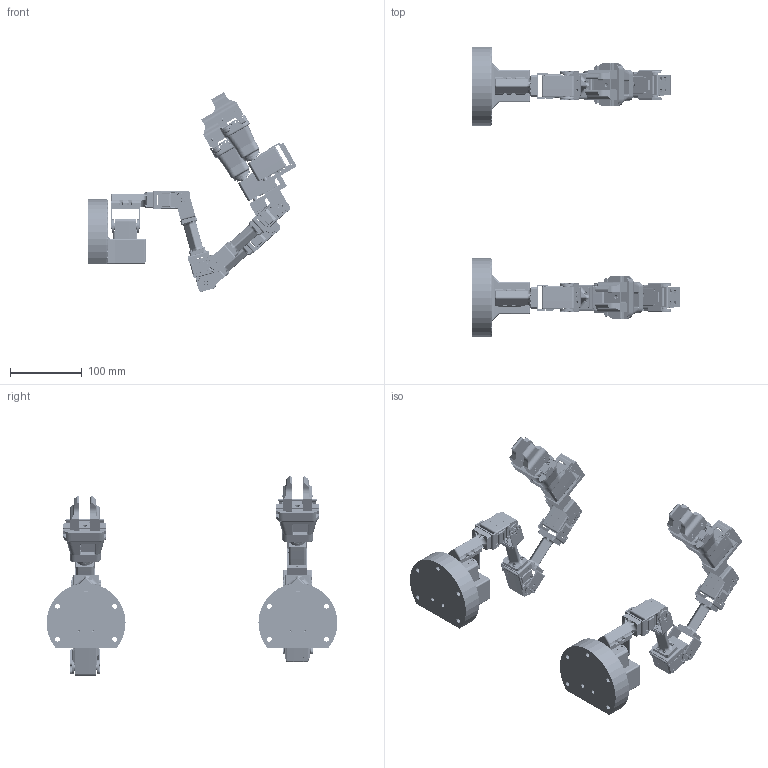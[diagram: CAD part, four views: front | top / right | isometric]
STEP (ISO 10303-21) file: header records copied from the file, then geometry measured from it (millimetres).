
FILE_DESCRIPTION(/* description */ (''),/* implementation_level */ '2;1');
FILE_NAME(/* name */ 'Assieme_101_braket_v2.stp',/* time_stamp */ '2025-07-27T10:24:52+02:00',/* author */ ('R5800u'),/* organization */ (''),/* preprocessor_version */ 'ST-DEVELOPER v20',/* originating_system */ 'Autodesk Inventor 2025',/* authorisation */ '');
FILE_SCHEMA (('AUTOMOTIVE_DESIGN { 1 0 10303 214 3 1 1 }'));
Products named in the file (60): Assieme3; sts3215_flangia_t1; Сборка14_3; SCS215_7_3; sts3215_flangia_t1_1; Сборка14_3_1; SCS215_7_3_1; Vite a testa cilindrica incassata esalobulare ISO 14580 - M2,5x8-4.8; AS 1474 - M2,5; sts3215_flangia_t1_2; Сборка14_3_2; SCS215_7_3_2; sts3215_flangia_t1_3; Сборка14_3_3; SCS215_7_3_3; Assieme2; sts3215_flangia_t1_4; Сборка14_3_4; SCS215_7_3_4; sts3215_flangia_t1_5; Сборка14_3_5; SCS215_7_3_5; blocco_base; gripper; gripper_rail_base; gripper_finger; gripper_base_plate; MG90S_assieme_disco_ldb2; MG90_ldb; scritta_MG90s; MG90S 9g Micro Servo Medium Horn 12 holes; blocco_giunto_polso; gripper_spur_gear v2; dito1; BS 4168 - M2,5 x 10; AS 1420 - 1973 - M3 x 10; AS 1427 - M2 x 12; sts3215_flangia_t13iam; Сборка14_3_6; SCS215_7_3_6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
Assembly tree (154 placements, depth 6):
  Assieme3
    sts3215_flangia_t1
      Сборка14_3
        SCS215_7_3
          ZK_122
          SG-ZIJI_15
          XG-ZIJI_16
          MOTOR-1723_3
          PCB-CHAZUO_92
          GE_27
          金属舵盘（驱动）
          金属舵盘（从动）
      flangia3
      flangia1
    sts3215_flangia_t1_1
      Сборка14_3_1
        SCS215_7_3_1
          ZK_122
          SG-ZIJI_15
          XG-ZIJI_16
          MOTOR-1723_3
          PCB-CHAZUO_92
          GE_27
          金属舵盘（驱动）
          金属舵盘（从动）
      flangia3
      flangia1
    link_quadro_15mm  x2
    Vite a testa cilindrica incassata esalobulare ISO 14580 - M2,5x8-4.8  x4
    AS 1474 - M2,5
    sts3215_flangia_t1_2
      Сборка14_3_2
        SCS215_7_3_2
          ZK_122
          SG-ZIJI_15
          XG-ZIJI_16
          MOTOR-1723_3
          PCB-CHAZUO_92
          GE_27
          金属舵盘（驱动）
          金属舵盘（从动）
      flangia3
      flangia1
    blocco_base
    gripper
      gripper_rail_base
      gripper_finger  x2
      gripper_base_plate
      MG90S_assieme_disco_ldb2
        MG90_ldb
        scritta_MG90s  x2
      MG90S 9g Micro Servo Medium Horn 12 holes
      blocco_giunto_polso
      gripper_spur_gear v2
      dito1  x2
      AS 1420 - 1973 - M3 x 10  x5
      BS 4168 - M2,5 x 10
      AS 1427 - M2 x 12
    sts3215_flangia_t13iam
      Сборка14_3_6
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Bounding box: 290.65 x 405.1 x 278.14 mm (x, y, z)
Volume: 1352934.8 mm3; surface area: 502024.7 mm2
Topology: 149 solids, 255 shells, 15149 faces, 41904 edges, 27855 vertices
Faces by surface type: plane 6882, cylinder 5883, bspline 1388, cone 544, torus 298, sphere 154
Full cylindrical faces by diameter (mm): 1 x10, 1.03 x12, 1.167 x6, 1.2 x10, 1.5 x14, 1.6 x120, 1.755 x2, 2 x59, 2.013 x1, 2.2 x81, 2.47 x2, 2.5 x330, 2.6 x10, 2.7 x10, 3 x298, 3.2 x52, 3.5 x32, 4 x12, 4.5 x12, 4.69 x2, 4.7 x10, 4.8 x2, 5 x24, 5.5 x26, 5.8 x8, 6 x32, 6.05 x8, 6.1 x10, 6.2 x10, 6.5 x20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
Entity records: 140612 total; most frequent: CARTESIAN_POINT 70960, ORIENTED_EDGE 14500, DIRECTION 13601, EDGE_CURVE 7250, VERTEX_POINT 4870, AXIS2_PLACEMENT_3D 4691, LINE 4219, VECTOR 4219
